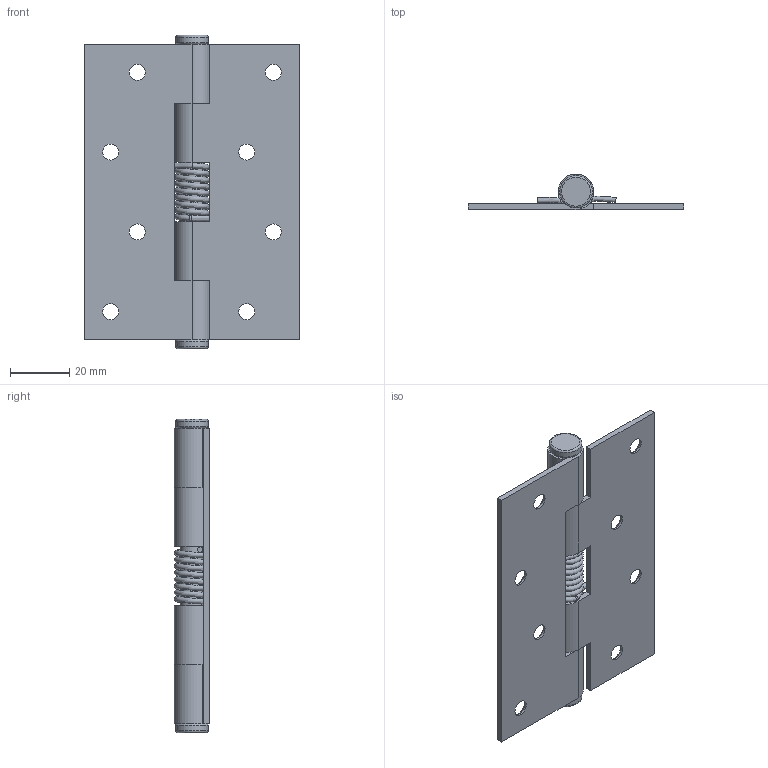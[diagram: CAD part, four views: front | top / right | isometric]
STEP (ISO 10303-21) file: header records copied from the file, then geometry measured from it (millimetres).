
FILE_DESCRIPTION(/* description */ (''),/* implementation_level */ '2;1');
FILE_NAME(/* name */ '\\NAS\db20\HS10073-20\DR_HS10073-20.stp',/* time_stamp */ '2017-08-21T14:59:27+09:00',/* author */ ('user'),/* organization */ (''),/* preprocessor_version */ 'ST-DEVELOPER v15.6',/* originating_system */ 'Autodesk Inventor 2015',/* authorisation */ '');
FILE_SCHEMA (('AUTOMOTIVE_DESIGN { 1 0 10303 214 3 1 1 }'));
Length unit declared in the file: millimetre
Products named in the file (3): DR_HS10073-20P; DR_HS10073-20P2; DR_HS10073-20
Bounding box: 73 x 12.07 x 106 mm (x, y, z)
Volume: 23238.4 mm3; surface area: 23403.9 mm2
Topology: 6 solids, 6 shells, 68 faces, 158 edges, 104 vertices
Faces by surface type: plane 34, cylinder 19, cone 8, torus 4, bspline 3
Full cylindrical faces by diameter (mm): 5.4 x8, 8 x1, 11 x2
Entity records: 3224 total; most frequent: CARTESIAN_POINT 1676, DIRECTION 320, ORIENTED_EDGE 254, EDGE_CURVE 127, AXIS2_PLACEMENT_3D 126, EDGE_LOOP 109, VERTEX_POINT 96, FACE_OUTER_BOUND 68
